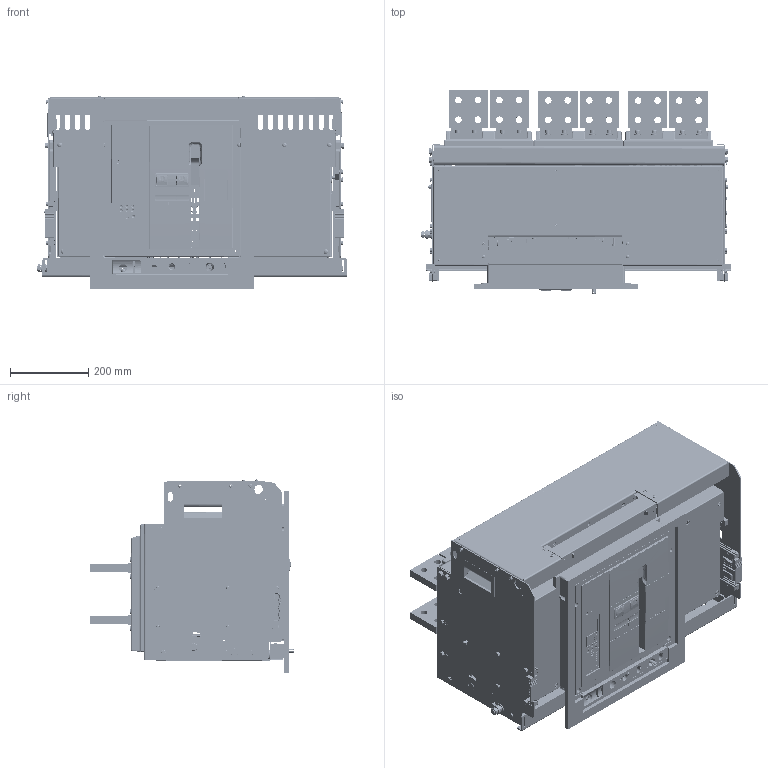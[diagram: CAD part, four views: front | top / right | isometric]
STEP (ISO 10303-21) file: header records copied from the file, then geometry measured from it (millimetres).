
FILE_DESCRIPTION (( 'STEP AP214' ), '1' );
FILE_NAME ('TEW5-6300 D 3P 4000A.STEP', '2026-04-03T12:45:36', ( '' ), ( '' ), 'SwSTEP 2.0', 'SolidWorks 2024', '' );
FILE_SCHEMA (( 'AUTOMOTIVE_DESIGN' ));
Products named in the file (1): TEW5-6300 D 3P 4000A
Bounding box: 792 x 520.05 x 494.06 mm (x, y, z)
Surface area: 4928177.5 mm2 (no closed solid volume)
Topology: 0 solids, 1173 shells, 7027 faces, 33067 edges, 26343 vertices
Faces by surface type: plane 3796, cylinder 2172, torus 399, cone 384, bspline 194, sphere 82
Entity records: 446353 total; most frequent: CARTESIAN_POINT 228748, ORIENTED_EDGE 43801, EDGE_CURVE 33024, DIRECTION 29473, VERTEX_POINT 26343, B_SPLINE_CURVE_WITH_KNOTS 20153, AXIS2_PLACEMENT_3D 9833, VECTOR 9807
